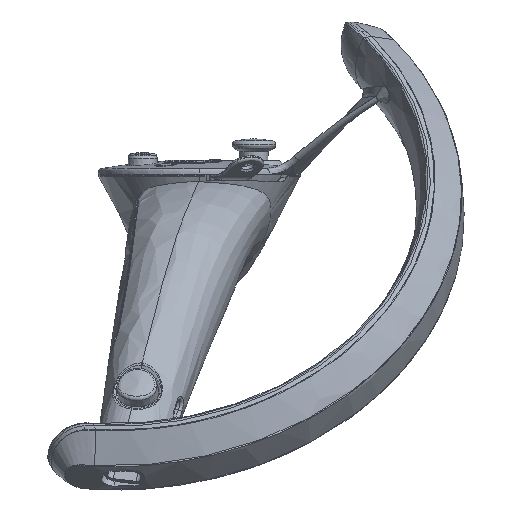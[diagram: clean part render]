
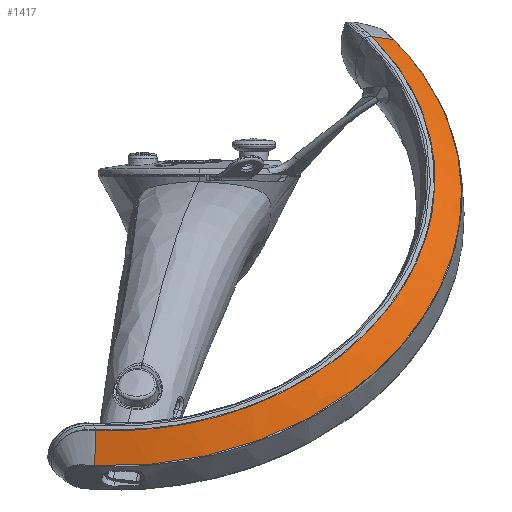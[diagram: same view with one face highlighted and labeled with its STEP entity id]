
A CAD part, top view. The second image highlights one B-rep face of the part: STEP entity #1417.
In plain terms, the highlighted free-form (B-spline) face has degree [3, 3] with [4, 4] control points.
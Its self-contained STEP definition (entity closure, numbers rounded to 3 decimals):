
#499=(
BOUNDED_SURFACE()
B_SPLINE_SURFACE(3,3,((#44589,#44590,#44591,#44592),(#44593,#44594,#44595,
#44596),(#44597,#44598,#44599,#44600),(#44601,#44602,#44603,#44604)),
 .UNSPECIFIED.,.F.,.F.,.F.)
B_SPLINE_SURFACE_WITH_KNOTS((4,4),(4,4),(0.,1.),(0.,1.),.UNSPECIFIED.)
GEOMETRIC_REPRESENTATION_ITEM()
RATIONAL_B_SPLINE_SURFACE(((1.,0.588,0.588,1.),
(0.999,0.588,0.588,0.999),
(0.999,0.588,0.588,0.999),
(1.,0.588,0.588,1.)))
REPRESENTATION_ITEM('')
SURFACE()
);
#821=FACE_OUTER_BOUND('',#1917,.T.);
#1417=ADVANCED_FACE('',(#821),#499,.T.);
#1917=EDGE_LOOP('',(#3514,#3515,#3516,#3517));
#3514=ORIENTED_EDGE('',*,*,#5197,.F.);
#3515=ORIENTED_EDGE('',*,*,#5198,.T.);
#3516=ORIENTED_EDGE('',*,*,#5199,.F.);
#3517=ORIENTED_EDGE('',*,*,#5196,.T.);
#4336=VERTEX_POINT('',#44291);
#4337=VERTEX_POINT('',#44382);
#4338=VERTEX_POINT('',#44563);
#4339=VERTEX_POINT('',#44584);
#5196=EDGE_CURVE('',#4336,#4337,#5948,.T.);
#5197=EDGE_CURVE('',#4338,#4337,#5949,.T.);
#5198=EDGE_CURVE('',#4338,#4339,#5950,.T.);
#5199=EDGE_CURVE('',#4336,#4339,#5951,.T.);
#5948=B_SPLINE_CURVE_WITH_KNOTS('',3,(#44447,#44448,#44449,#44450,#44451,
#44452,#44453,#44454,#44455,#44456,#44457,#44458,#44459,#44460,#44461,#44462,
#44463,#44464,#44465,#44466,#44467,#44468,#44469,#44470,#44471,#44472,#44473,
#44474),.UNSPECIFIED.,.F.,.F.,(4,2,2,2,2,2,2,2,2,2,2,2,2,4),(0.,0.063,
0.125,0.188,0.25,0.375,0.438,0.5,0.563,0.625,0.75,0.875,0.938,1.),
 .UNSPECIFIED.);
#5949=B_SPLINE_CURVE_WITH_KNOTS('',3,(#44559,#44560,#44561,#44562),
 .UNSPECIFIED.,.F.,.F.,(4,4),(0.,1.),.UNSPECIFIED.);
#5950=B_SPLINE_CURVE_WITH_KNOTS('',3,(#44564,#44565,#44566,#44567,#44568,
#44569,#44570,#44571,#44572,#44573,#44574,#44575,#44576,#44577,#44578,#44579,
#44580,#44581,#44582,#44583),.UNSPECIFIED.,.F.,.F.,(4,2,2,2,2,2,2,2,2,4),
(0.,0.125,0.25,0.375,0.5,0.563,0.625,0.75,0.875,1.),.UNSPECIFIED.);
#5951=B_SPLINE_CURVE_WITH_KNOTS('',3,(#44585,#44586,#44587,#44588),
 .UNSPECIFIED.,.F.,.F.,(4,4),(0.,1.),.UNSPECIFIED.);
#44291=CARTESIAN_POINT('',(-32.387,-94.84,122.786));
#44382=CARTESIAN_POINT('',(60.093,37.101,23.93));
#44447=CARTESIAN_POINT('',(-32.387,-94.84,122.786));
#44448=CARTESIAN_POINT('',(-27.388,-95.071,123.346));
#44449=CARTESIAN_POINT('',(-22.35,-95.01,123.676));
#44450=CARTESIAN_POINT('',(-12.412,-94.328,123.875));
#44451=CARTESIAN_POINT('',(-7.488,-93.71,123.749));
#44452=CARTESIAN_POINT('',(2.272,-91.919,123.046));
#44453=CARTESIAN_POINT('',(7.144,-90.735,122.463));
#44454=CARTESIAN_POINT('',(16.596,-87.846,120.855));
#44455=CARTESIAN_POINT('',(21.159,-86.151,119.839));
#44456=CARTESIAN_POINT('',(34.371,-80.335,116.167));
#44457=CARTESIAN_POINT('',(42.638,-75.399,112.83));
#44458=CARTESIAN_POINT('',(53.34,-66.934,106.845));
#44459=CARTESIAN_POINT('',(56.652,-63.927,104.682));
#44460=CARTESIAN_POINT('',(62.753,-57.536,100.016));
#44461=CARTESIAN_POINT('',(65.543,-54.141,97.503));
#44462=CARTESIAN_POINT('',(70.415,-47.19,92.295));
#44463=CARTESIAN_POINT('',(72.524,-43.608,89.581));
#44464=CARTESIAN_POINT('',(76.092,-36.232,83.934));
#44465=CARTESIAN_POINT('',(77.557,-32.406,80.976));
#44466=CARTESIAN_POINT('',(80.847,-20.861,71.966));
#44467=CARTESIAN_POINT('',(81.61,-13.109,65.807));
#44468=CARTESIAN_POINT('',(80.221,2.509,53.179));
#44469=CARTESIAN_POINT('',(78.1,10.009,47.006));
#44470=CARTESIAN_POINT('',(72.83,20.768,37.983));
#44471=CARTESIAN_POINT('',(70.712,24.273,35.013));
#44472=CARTESIAN_POINT('',(65.874,30.921,29.32));
#44473=CARTESIAN_POINT('',(63.143,34.09,26.573));
#44474=CARTESIAN_POINT('',(60.093,37.101,23.93));
#44559=CARTESIAN_POINT('',(53.475,37.985,32.565));
#44560=CARTESIAN_POINT('',(57.466,37.672,27.604));
#44561=CARTESIAN_POINT('',(59.562,37.204,24.655));
#44562=CARTESIAN_POINT('',(60.093,37.101,23.93));
#44563=CARTESIAN_POINT('',(53.475,37.985,32.565));
#44564=CARTESIAN_POINT('',(53.475,37.985,32.565));
#44565=CARTESIAN_POINT('',(59.092,32.44,37.433));
#44566=CARTESIAN_POINT('',(63.569,26.293,42.698));
#44567=CARTESIAN_POINT('',(70.095,13.024,53.828));
#44568=CARTESIAN_POINT('',(72.086,5.987,59.62));
#44569=CARTESIAN_POINT('',(73.367,-8.39,71.245));
#44570=CARTESIAN_POINT('',(72.651,-15.681,77.038));
#44571=CARTESIAN_POINT('',(68.579,-29.903,88.136));
#44572=CARTESIAN_POINT('',(65.211,-36.845,93.45));
#44573=CARTESIAN_POINT('',(58.407,-46.51,100.689));
#44574=CARTESIAN_POINT('',(55.831,-49.629,102.996));
#44575=CARTESIAN_POINT('',(50.194,-55.513,107.291));
#44576=CARTESIAN_POINT('',(47.139,-58.28,109.279));
#44577=CARTESIAN_POINT('',(37.275,-66.064,114.78));
#44578=CARTESIAN_POINT('',(29.69,-70.6,117.847));
#44579=CARTESIAN_POINT('',(13.257,-77.818,122.401));
#44580=CARTESIAN_POINT('',(4.57,-80.459,123.868));
#44581=CARTESIAN_POINT('',(-13.454,-83.771,125.172));
#44582=CARTESIAN_POINT('',(-22.816,-84.418,124.989));
#44583=CARTESIAN_POINT('',(-32.022,-83.994,123.958));
#44584=CARTESIAN_POINT('',(-32.022,-83.994,123.958));
#44585=CARTESIAN_POINT('',(-32.387,-94.84,122.786));
#44586=CARTESIAN_POINT('',(-32.363,-93.954,122.917));
#44587=CARTESIAN_POINT('',(-32.267,-90.357,123.523));
#44588=CARTESIAN_POINT('',(-32.022,-83.994,123.958));
#44589=CARTESIAN_POINT('',(-33.337,-83.86,123.809));
#44590=CARTESIAN_POINT('',(65.31,-89.497,135.735));
#44591=CARTESIAN_POINT('',(114.001,-20.031,83.687));
#44592=CARTESIAN_POINT('',(52.622,38.778,31.922));
#44593=CARTESIAN_POINT('',(-33.517,-87.531,123.555));
#44594=CARTESIAN_POINT('',(67.958,-93.33,135.823));
#44595=CARTESIAN_POINT('',(118.044,-21.873,82.284));
#44596=CARTESIAN_POINT('',(54.906,38.621,29.036));
#44597=CARTESIAN_POINT('',(-33.677,-91.19,123.155));
#44598=CARTESIAN_POINT('',(70.519,-97.145,135.752));
#44599=CARTESIAN_POINT('',(121.948,-23.771,80.777));
#44600=CARTESIAN_POINT('',(57.117,38.345,26.101));
#44601=CARTESIAN_POINT('',(-33.82,-94.831,122.61));
#44602=CARTESIAN_POINT('',(72.988,-100.935,135.522));
#44603=CARTESIAN_POINT('',(125.706,-25.722,79.17));
#44604=CARTESIAN_POINT('',(59.25,37.951,23.123));
